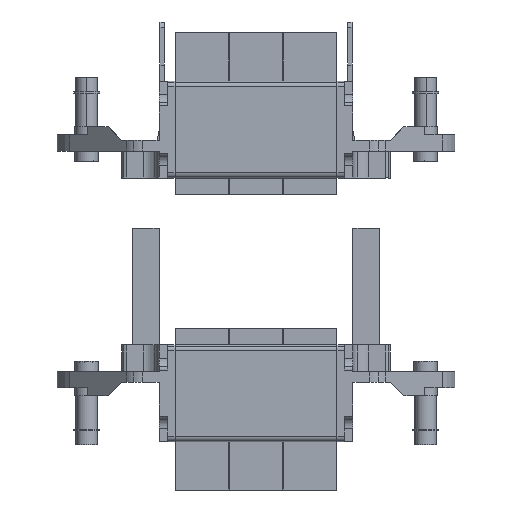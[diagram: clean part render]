
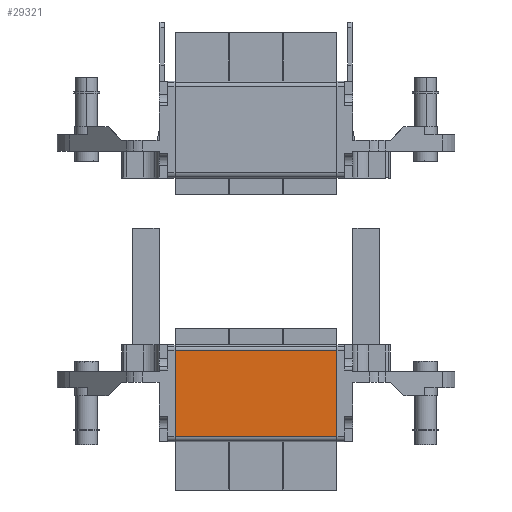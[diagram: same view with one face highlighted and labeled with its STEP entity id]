
A CAD part, front view. The second image highlights one B-rep face of the part: STEP entity #29321.
In plain terms, the highlighted planar face has unit normal (0, -1, 0).
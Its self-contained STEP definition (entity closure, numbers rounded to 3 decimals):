
#26406=CARTESIAN_POINT(' ',(15.,-17.5,-4.));
#26407=VERTEX_POINT(' ',#26406);
#26421=CARTESIAN_POINT(' ',(15.,-17.5,-20.));
#26426=DIRECTION(' ',(0.,0.,1.));
#26431=VECTOR(' ',#26426,1.);
#26436=LINE('',#26421,#26431);
#26441=CARTESIAN_POINT(' ',(15.,-17.5,-20.));
#26442=VERTEX_POINT(' ',#26441);
#26446=EDGE_CURVE(' ',#26442,#26407,#26436,.T.);
#27641=CARTESIAN_POINT(' ',(-15.,-17.5,-20.));
#27642=VERTEX_POINT(' ',#27641);
#27656=CARTESIAN_POINT(' ',(-15.,-17.5,-20.));
#27661=DIRECTION(' ',(0.,0.,1.));
#27666=VECTOR(' ',#27661,1.);
#27671=LINE('',#27656,#27666);
#27676=CARTESIAN_POINT(' ',(-15.,-17.5,-4.));
#27677=VERTEX_POINT(' ',#27676);
#27681=EDGE_CURVE(' ',#27642,#27677,#27671,.T.);
#28486=CARTESIAN_POINT(' ',(-15.,-17.5,-4.));
#28491=DIRECTION(' ',(1.,0.,0.));
#28496=VECTOR(' ',#28491,1.);
#28501=LINE('',#28486,#28496);
#28506=EDGE_CURVE(' ',#27677,#26407,#28501,.T.);
#29241=DIRECTION(' ',(0.,-1.,0.));
#29246=CARTESIAN_POINT(' ',(-15.,-17.5,-4.));
#29251=DIRECTION(' ',(0.,0.,-1.));
#29256=AXIS2_PLACEMENT_3D(' ',#29246,#29241,#29251);
#29261=PLANE('NONE',#29256);
#29266=CARTESIAN_POINT(' ',(15.,-17.5,-20.));
#29271=DIRECTION(' ',(-1.,0.,0.));
#29276=VECTOR(' ',#29271,1.);
#29281=LINE('',#29266,#29276);
#29286=EDGE_CURVE(' ',#26442,#27642,#29281,.T.);
#29291=ORIENTED_EDGE(' ',*,*,#29286,.F.);
#29296=ORIENTED_EDGE(' ',*,*,#26446,.T.);
#29301=ORIENTED_EDGE(' ',*,*,#28506,.F.);
#29306=ORIENTED_EDGE(' ',*,*,#27681,.F.);
#29311=EDGE_LOOP(' ',(#29291,#29296,#29301,#29306));
#29316=FACE_OUTER_BOUND(' ',#29311,.T.);
#29321=ADVANCED_FACE('NONE',(#29316),#29261,.T.);
